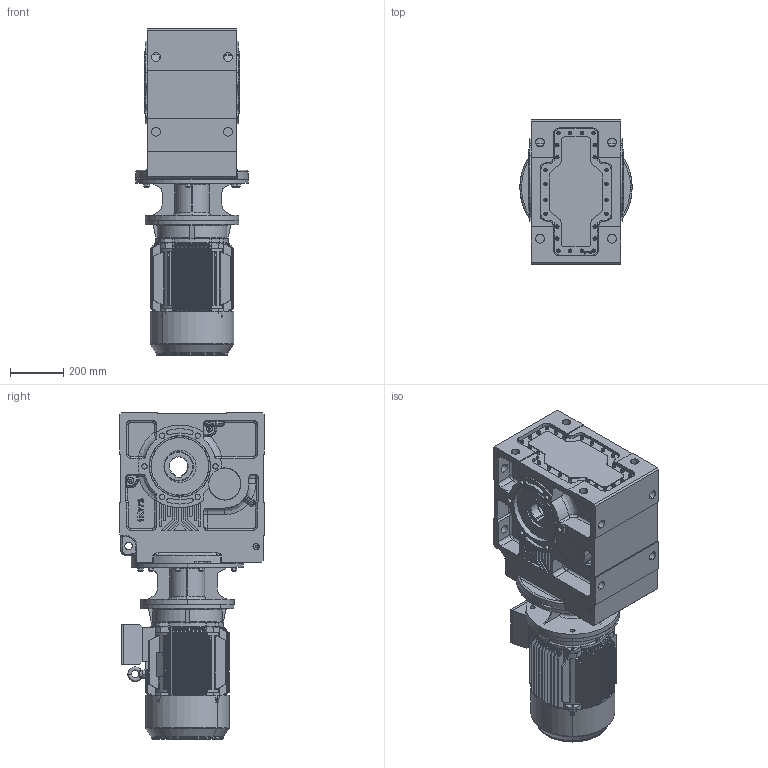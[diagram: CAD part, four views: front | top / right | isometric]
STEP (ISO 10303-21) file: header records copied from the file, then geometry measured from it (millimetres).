
FILE_DESCRIPTION (( 'STEP AP203' ), '1' );
FILE_NAME ('KV_773_0_160M-4.STEP', '2019-07-18T10:21:34', ( '' ), ( '' ), 'SwSTEP 2.0', 'SolidWorks 2012', '' );
FILE_SCHEMA (( 'CONFIG_CONTROL_DESIGN' ));
Products named in the file (15): M3-160M-FF-B5; KV_773_0_160M-4; +ª+§ªiY2-160ñ»ª­_-++ñ; Y2-160ñ»ª­+¿_-++ñ; Y2-160M+À+¿(B5)_-++ñ; Y2-160_shaft; +¦i-MN2-160_-++ñ; Y2-160-2ª¥--®+_-++ñ; Y2-160-4Ý¾6Ý¾8-ª+---®+_-++ñ; Y2-160-180ñ»ª­®+_-++ñ; ML60A_Varsayìlan; KN_77_3_0_A-B16_B5_ML60A_0_0_0_0_0_0_0_0_0_0_0_0_M1; Eyebolts GB_GB_FASTENER_SCREWS_FRS M12; 73160B5_Varsayìlan; K773_Varsayìlan
Assembly tree (14 placements, depth 4):
  KV_773_0_160M-4
    KN_77_3_0_A-B16_B5_ML60A_0_0_0_0_0_0_0_0_0_0_0_0_M1
      K773_Varsayìlan
      73160B5_Varsayìlan
      ML60A_Varsayìlan
    M3-160M-FF-B5
      Eyebolts GB_GB_FASTENER_SCREWS_FRS M12
      Y2-160-4Ý¾6Ý¾8-ª+---®+_-++ñ
      +¦i-MN2-160_-++ñ
      Y2-160-2ª¥--®+_-++ñ
      +ª+§ªiY2-160ñ»ª­_-++ñ
        Y2-160-180ñ»ª­®+_-++ñ
        Y2-160ñ»ª­+¿_-++ñ
      Y2-160M+À+¿(B5)_-++ñ
      Y2-160_shaft
Bounding box: 420 x 540 x 1220 mm (x, y, z)
Volume: 94477710.2 mm3; surface area: 5102242.7 mm2
Topology: 11 solids, 11 shells, 3228 faces, 8316 edges, 5225 vertices
Faces by surface type: plane 1266, cylinder 1097, bspline 387, cone 371, torus 67, sphere 40
Entity records: 147385 total; most frequent: CARTESIAN_POINT 70911, ORIENTED_EDGE 16426, DIRECTION 14423, EDGE_CURVE 8213, AXIS2_PLACEMENT_3D 5275, VERTEX_POINT 5210, LINE 3873, VECTOR 3873
